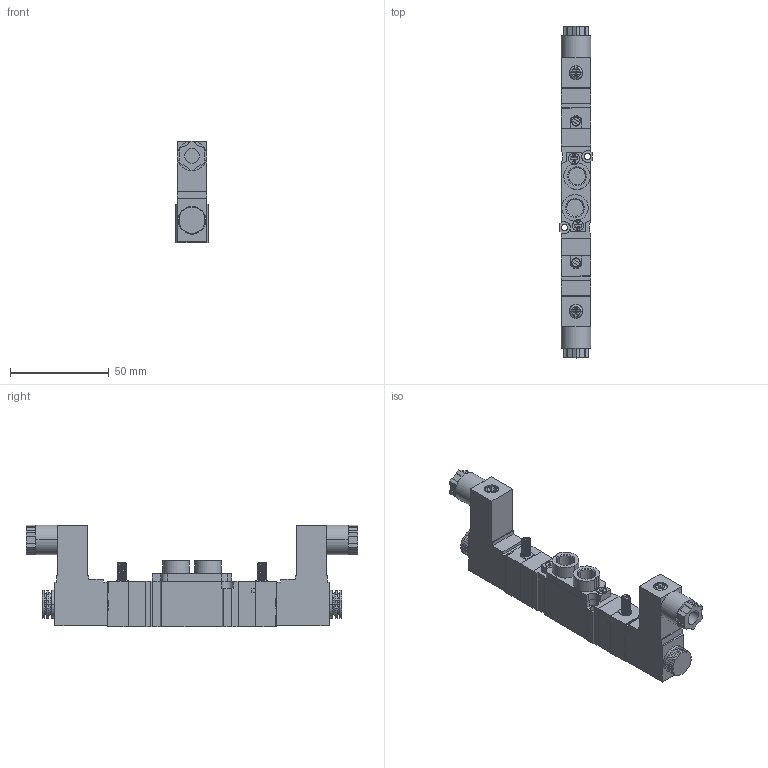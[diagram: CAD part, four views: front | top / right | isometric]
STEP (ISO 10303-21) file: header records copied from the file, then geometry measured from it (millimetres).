
FILE_DESCRIPTION(('STEP AP214'),'1');
FILE_NAME('V20E150V2.stp','2020-09-08T14:28:27',(' '),(' '),'Spatial InterOp 3D',' ',' ');
FILE_SCHEMA(('automotive_design'));
Length unit declared in the file: millimetre
Products named in the file (8): V20E150V2; V20-6; V20-5; V20-1; V20-4; V20-2; V20-3
Assembly tree (8 placements, depth 2):
  V20E150V2
    V20-6
    V20-5
    V20-1
    V20-4
    V20-2  x2
    V20-3
    V20-4
Bounding box: 16.2 x 167.7 x 51.5 mm (x, y, z)
Volume: 68899.3 mm3; surface area: 35471.7 mm2
Topology: 31 solids, 31 shells, 1368 faces, 3586 edges, 2326 vertices
Faces by surface type: plane 846, cylinder 394, cone 84, torus 40, bspline 4
Entity records: 47762 total; most frequent: CARTESIAN_POINT 14628, ORIENTED_EDGE 5228, DIRECTION 5111, EDGE_CURVE 2614, AXIS2_PLACEMENT_3D 1708, LINE 1695, VECTOR 1695, VERTEX_POINT 1694
